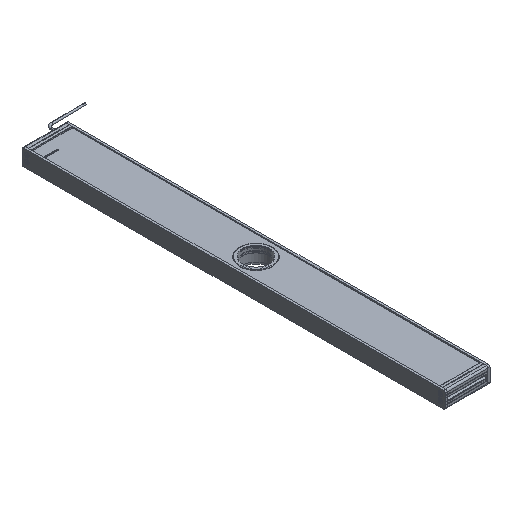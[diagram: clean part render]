
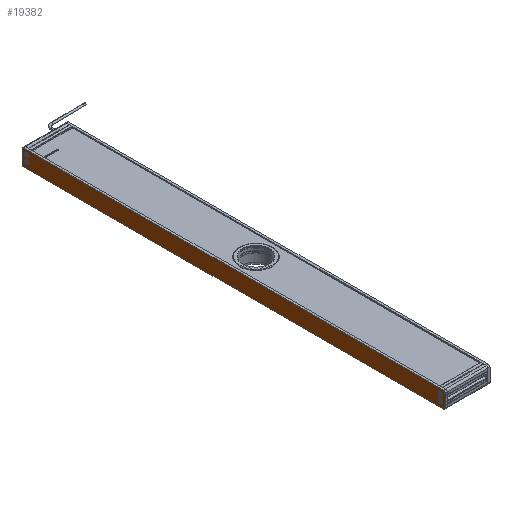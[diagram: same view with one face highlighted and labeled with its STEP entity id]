
A CAD part, isometric view. The second image highlights one B-rep face of the part: STEP entity #19382.
In plain terms, the highlighted planar face has unit normal (-1, 0, 0) as drawn and (0, 0, -1) by its records, which use the part's own axes.
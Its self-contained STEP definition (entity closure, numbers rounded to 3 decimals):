
#237 = FACE_BOUND ( 'NONE', #8147, .T. ) ;
#283 = CARTESIAN_POINT ( 'NONE',  ( -514., 20., 0. ) ) ;
#307 = CARTESIAN_POINT ( 'NONE',  ( -514., -20., 0. ) ) ;
#427 = VECTOR ( 'NONE', #22270, 1000. ) ;
#553 = CARTESIAN_POINT ( 'NONE',  ( -511.9, -6.3, 0. ) ) ;
#651 = EDGE_CURVE ( 'NONE', #7223, #14694, #8616, .T. ) ;
#858 = VERTEX_POINT ( 'NONE', #23267 ) ;
#868 = AXIS2_PLACEMENT_3D ( 'NONE', #21426, #19077, #7076 ) ;
#895 = DIRECTION ( 'NONE',  ( -1., 0., 0. ) ) ;
#986 = DIRECTION ( 'NONE',  ( -1., 0., 0. ) ) ;
#1406 = EDGE_CURVE ( 'NONE', #9394, #5945, #23005, .T. ) ;
#1598 = CARTESIAN_POINT ( 'NONE',  ( -500.7, 8.5, 0. ) ) ;
#1943 = CARTESIAN_POINT ( 'NONE',  ( -518., 16., 0. ) ) ;
#2108 = DIRECTION ( 'NONE',  ( 0., 0., -1. ) ) ;
#2227 = DIRECTION ( 'NONE',  ( -1., 0., 0. ) ) ;
#2462 = AXIS2_PLACEMENT_3D ( 'NONE', #4472, #2480, #16317 ) ;
#2480 = DIRECTION ( 'NONE',  ( 0., 0., -1. ) ) ;
#2561 = LINE ( 'NONE', #17046, #15352 ) ;
#2796 = DIRECTION ( 'NONE',  ( -1., 0., 0. ) ) ;
#3040 = ORIENTED_EDGE ( 'NONE', *, *, #12468, .F. ) ;
#3065 = DIRECTION ( 'NONE',  ( -1., 0., 0. ) ) ;
#3457 = DIRECTION ( 'NONE',  ( -1., 0., 0. ) ) ;
#3503 = AXIS2_PLACEMENT_3D ( 'NONE', #13208, #7257, #21218 ) ;
#3634 = ORIENTED_EDGE ( 'NONE', *, *, #11220, .F. ) ;
#4261 = VERTEX_POINT ( 'NONE', #24567 ) ;
#4298 = CIRCLE ( 'NONE', #10200, 5.6 ) ;
#4472 = CARTESIAN_POINT ( 'NONE',  ( 514., 16., 0. ) ) ;
#4919 = EDGE_CURVE ( 'NONE', #4261, #12166, #10254, .T. ) ;
#4930 = EDGE_LOOP ( 'NONE', ( #16069, #15949 ) ) ;
#5128 = DIRECTION ( 'NONE',  ( 0., 0., 1. ) ) ;
#5188 = EDGE_CURVE ( 'NONE', #858, #9394, #14967, .T. ) ;
#5358 = EDGE_CURVE ( 'NONE', #11020, #4261, #10718, .T. ) ;
#5577 = AXIS2_PLACEMENT_3D ( 'NONE', #11643, #23367, #3457 ) ;
#5782 = EDGE_LOOP ( 'NONE', ( #14310, #7698, #21045, #12383, #25566, #16404, #21034, #11232 ) ) ;
#5831 = EDGE_LOOP ( 'NONE', ( #12808, #13463 ) ) ;
#5945 = VERTEX_POINT ( 'NONE', #15873 ) ;
#6193 = PLANE ( 'NONE',  #2462 ) ;
#6215 = LINE ( 'NONE', #14261, #427 ) ;
#6380 = CIRCLE ( 'NONE', #868, 5.6 ) ;
#6588 = CARTESIAN_POINT ( 'NONE',  ( -506.3, 8.5, 0. ) ) ;
#6682 = VERTEX_POINT ( 'NONE', #25551 ) ;
#7076 = DIRECTION ( 'NONE',  ( -1., 0., 0. ) ) ;
#7223 = VERTEX_POINT ( 'NONE', #1598 ) ;
#7257 = DIRECTION ( 'NONE',  ( 0., 0., -1. ) ) ;
#7467 = CARTESIAN_POINT ( 'NONE',  ( 514., -20., 0. ) ) ;
#7552 = CARTESIAN_POINT ( 'NONE',  ( 500.7, -6.3, 0. ) ) ;
#7614 = AXIS2_PLACEMENT_3D ( 'NONE', #14134, #2108, #18726 ) ;
#7698 = ORIENTED_EDGE ( 'NONE', *, *, #22918, .F. ) ;
#7744 = VERTEX_POINT ( 'NONE', #19357 ) ;
#7877 = VERTEX_POINT ( 'NONE', #21980 ) ;
#8147 = EDGE_LOOP ( 'NONE', ( #20175, #3634 ) ) ;
#8616 = CIRCLE ( 'NONE', #14522, 5.6 ) ;
#9394 = VERTEX_POINT ( 'NONE', #7467 ) ;
#9397 = EDGE_CURVE ( 'NONE', #21270, #20288, #6380, .T. ) ;
#9586 = DIRECTION ( 'NONE',  ( -1., 0., 0. ) ) ;
#10200 = AXIS2_PLACEMENT_3D ( 'NONE', #17549, #25573, #2227 ) ;
#10254 = CIRCLE ( 'NONE', #11119, 4. ) ;
#10506 = VERTEX_POINT ( 'NONE', #15424 ) ;
#10601 = AXIS2_PLACEMENT_3D ( 'NONE', #12716, #18890, #3065 ) ;
#10610 = DIRECTION ( 'NONE',  ( 0., -1., 0. ) ) ;
#10718 = LINE ( 'NONE', #283, #11205 ) ;
#11020 = VERTEX_POINT ( 'NONE', #24516 ) ;
#11119 = AXIS2_PLACEMENT_3D ( 'NONE', #14488, #18937, #986 ) ;
#11205 = VECTOR ( 'NONE', #2796, 1000. ) ;
#11220 = EDGE_CURVE ( 'NONE', #6682, #10506, #21164, .T. ) ;
#11231 = DIRECTION ( 'NONE',  ( 0., 0., 1. ) ) ;
#11232 = ORIENTED_EDGE ( 'NONE', *, *, #5358, .F. ) ;
#11595 = ORIENTED_EDGE ( 'NONE', *, *, #9397, .F. ) ;
#11643 = CARTESIAN_POINT ( 'NONE',  ( -514., -16., 0. ) ) ;
#11665 = CARTESIAN_POINT ( 'NONE',  ( -500.7, -6.3, 0. ) ) ;
#11712 = EDGE_CURVE ( 'NONE', #25046, #21556, #14058, .T. ) ;
#11821 = CARTESIAN_POINT ( 'NONE',  ( 506.3, -6.3, 0. ) ) ;
#12130 = EDGE_CURVE ( 'NONE', #7744, #11020, #13107, .T. ) ;
#12166 = VERTEX_POINT ( 'NONE', #1943 ) ;
#12247 = CIRCLE ( 'NONE', #7614, 5.6 ) ;
#12383 = ORIENTED_EDGE ( 'NONE', *, *, #5188, .F. ) ;
#12468 = EDGE_CURVE ( 'NONE', #20288, #21270, #21935, .T. ) ;
#12522 = DIRECTION ( 'NONE',  ( -1., 0., 0. ) ) ;
#12716 = CARTESIAN_POINT ( 'NONE',  ( 506.3, 8.5, 0. ) ) ;
#12806 = AXIS2_PLACEMENT_3D ( 'NONE', #25764, #13935, #15779 ) ;
#12808 = ORIENTED_EDGE ( 'NONE', *, *, #23010, .F. ) ;
#12866 = DIRECTION ( 'NONE',  ( 1., 0., 0. ) ) ;
#12945 = CARTESIAN_POINT ( 'NONE',  ( 514., -16., 0. ) ) ;
#13059 = CARTESIAN_POINT ( 'NONE',  ( 514., 16., 0. ) ) ;
#13107 = CIRCLE ( 'NONE', #24435, 4. ) ;
#13208 = CARTESIAN_POINT ( 'NONE',  ( 506.3, 8.5, 0. ) ) ;
#13412 = DIRECTION ( 'NONE',  ( 0., 0., -1. ) ) ;
#13463 = ORIENTED_EDGE ( 'NONE', *, *, #651, .F. ) ;
#13935 = DIRECTION ( 'NONE',  ( 0., 0., -1. ) ) ;
#14058 = CIRCLE ( 'NONE', #12806, 5.6 ) ;
#14134 = CARTESIAN_POINT ( 'NONE',  ( -506.3, 8.5, 0. ) ) ;
#14261 = CARTESIAN_POINT ( 'NONE',  ( 518., -16., 0. ) ) ;
#14310 = ORIENTED_EDGE ( 'NONE', *, *, #12130, .F. ) ;
#14450 = VECTOR ( 'NONE', #12866, 1000. ) ;
#14488 = CARTESIAN_POINT ( 'NONE',  ( -514., 16., 0. ) ) ;
#14522 = AXIS2_PLACEMENT_3D ( 'NONE', #6588, #24626, #12522 ) ;
#14583 = EDGE_CURVE ( 'NONE', #10506, #6682, #18599, .T. ) ;
#14694 = VERTEX_POINT ( 'NONE', #17151 ) ;
#14781 = EDGE_CURVE ( 'NONE', #7877, #858, #17339, .T. ) ;
#14832 = EDGE_CURVE ( 'NONE', #21556, #25046, #4298, .T. ) ;
#14967 = LINE ( 'NONE', #307, #14450 ) ;
#15352 = VECTOR ( 'NONE', #10610, 1000. ) ;
#15424 = CARTESIAN_POINT ( 'NONE',  ( 500.7, 8.5, 0. ) ) ;
#15779 = DIRECTION ( 'NONE',  ( -1., 0., 0. ) ) ;
#15873 = CARTESIAN_POINT ( 'NONE',  ( 518., -16., 0. ) ) ;
#15881 = EDGE_LOOP ( 'NONE', ( #3040, #11595 ) ) ;
#15949 = ORIENTED_EDGE ( 'NONE', *, *, #11712, .F. ) ;
#16069 = ORIENTED_EDGE ( 'NONE', *, *, #14832, .F. ) ;
#16200 = FACE_BOUND ( 'NONE', #4930, .T. ) ;
#16317 = DIRECTION ( 'NONE',  ( -1., 0., 0. ) ) ;
#16404 = ORIENTED_EDGE ( 'NONE', *, *, #17650, .F. ) ;
#17046 = CARTESIAN_POINT ( 'NONE',  ( -518., -16., 0. ) ) ;
#17151 = CARTESIAN_POINT ( 'NONE',  ( -511.9, 8.5, 0. ) ) ;
#17339 = CIRCLE ( 'NONE', #5577, 4. ) ;
#17549 = CARTESIAN_POINT ( 'NONE',  ( -506.3, -6.3, 0. ) ) ;
#17650 = EDGE_CURVE ( 'NONE', #12166, #7877, #2561, .T. ) ;
#18171 = FACE_BOUND ( 'NONE', #5831, .T. ) ;
#18599 = CIRCLE ( 'NONE', #10601, 5.6 ) ;
#18726 = DIRECTION ( 'NONE',  ( -1., 0., 0. ) ) ;
#18890 = DIRECTION ( 'NONE',  ( 0., 0., -1. ) ) ;
#18937 = DIRECTION ( 'NONE',  ( 0., 0., 1. ) ) ;
#19077 = DIRECTION ( 'NONE',  ( 0., 0., -1. ) ) ;
#19357 = CARTESIAN_POINT ( 'NONE',  ( 518., 16., 0. ) ) ;
#19382 = ADVANCED_FACE ( 'NONE', ( #237, #20540, #18171, #16200, #24225 ), #6193, .T. ) ;
#19787 = AXIS2_PLACEMENT_3D ( 'NONE', #11821, #13412, #9586 ) ;
#20175 = ORIENTED_EDGE ( 'NONE', *, *, #14583, .F. ) ;
#20288 = VERTEX_POINT ( 'NONE', #7552 ) ;
#20540 = FACE_BOUND ( 'NONE', #15881, .T. ) ;
#20996 = CARTESIAN_POINT ( 'NONE',  ( 511.9, -6.3, 0. ) ) ;
#21034 = ORIENTED_EDGE ( 'NONE', *, *, #4919, .F. ) ;
#21045 = ORIENTED_EDGE ( 'NONE', *, *, #1406, .F. ) ;
#21164 = CIRCLE ( 'NONE', #3503, 5.6 ) ;
#21218 = DIRECTION ( 'NONE',  ( -1., 0., 0. ) ) ;
#21270 = VERTEX_POINT ( 'NONE', #20996 ) ;
#21426 = CARTESIAN_POINT ( 'NONE',  ( 506.3, -6.3, 0. ) ) ;
#21556 = VERTEX_POINT ( 'NONE', #553 ) ;
#21935 = CIRCLE ( 'NONE', #19787, 5.6 ) ;
#21980 = CARTESIAN_POINT ( 'NONE',  ( -518., -16., 0. ) ) ;
#22270 = DIRECTION ( 'NONE',  ( 0., 1., 0. ) ) ;
#22594 = AXIS2_PLACEMENT_3D ( 'NONE', #12945, #11231, #25038 ) ;
#22918 = EDGE_CURVE ( 'NONE', #5945, #7744, #6215, .T. ) ;
#23005 = CIRCLE ( 'NONE', #22594, 4. ) ;
#23010 = EDGE_CURVE ( 'NONE', #14694, #7223, #12247, .T. ) ;
#23267 = CARTESIAN_POINT ( 'NONE',  ( -514., -20., 0. ) ) ;
#23367 = DIRECTION ( 'NONE',  ( 0., 0., 1. ) ) ;
#24225 = FACE_OUTER_BOUND ( 'NONE', #5782, .T. ) ;
#24435 = AXIS2_PLACEMENT_3D ( 'NONE', #13059, #5128, #895 ) ;
#24516 = CARTESIAN_POINT ( 'NONE',  ( 514., 20., 0. ) ) ;
#24567 = CARTESIAN_POINT ( 'NONE',  ( -514., 20., 0. ) ) ;
#24626 = DIRECTION ( 'NONE',  ( 0., 0., -1. ) ) ;
#25038 = DIRECTION ( 'NONE',  ( 1., 0., 0. ) ) ;
#25046 = VERTEX_POINT ( 'NONE', #11665 ) ;
#25551 = CARTESIAN_POINT ( 'NONE',  ( 511.9, 8.5, 0. ) ) ;
#25566 = ORIENTED_EDGE ( 'NONE', *, *, #14781, .F. ) ;
#25573 = DIRECTION ( 'NONE',  ( 0., 0., -1. ) ) ;
#25764 = CARTESIAN_POINT ( 'NONE',  ( -506.3, -6.3, 0. ) ) ;
